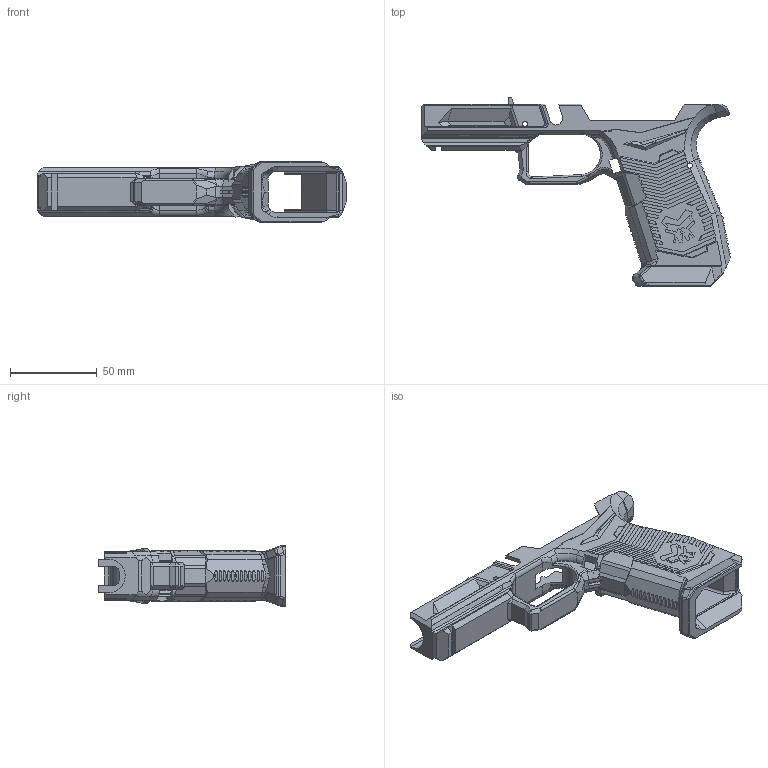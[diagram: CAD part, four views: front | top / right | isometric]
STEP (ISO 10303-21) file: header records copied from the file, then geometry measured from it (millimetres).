
FILE_DESCRIPTION(/* description */ ('','CAx-IF Rec.Pracs.---Representation and Presentation of Product Manufacturing Information (PMI)---4.0---2014-10-13'),/* implementation_level */ '2;1');
FILE_NAME(/* name */ 'Grey Site Variant GSV19X-G100.step',/* time_stamp */ '2025-03-06T20:16:35-07:00',/* author */ (''),/* organization */ (''),/* preprocessor_version */ 'ST-DEVELOPER v20',/* originating_system */ 'Autodesk Translation Framework v13.20.0.188',/* authorisation */ '');
FILE_SCHEMA (('AP242_MANAGED_MODEL_BASED_3D_ENGINEERING_MIM_LF { 1 0 10303 442 1 1 4 }'));
Length unit declared in the file: inch
Products named in the file (1): Grey Site Variant GSV19X-G100
Bounding box: 178.04 x 108.18 x 35.36 mm (x, y, z)
Volume: 84520.4 mm3; surface area: 44528.7 mm2
Topology: 1 solids, 1 shells, 989 faces, 2900 edges, 1899 vertices
Faces by surface type: plane 678, cylinder 206, bspline 77, torus 10, sphere 10, cone 8
Full cylindrical faces by diameter (mm): 1.321 x1, 3 x4
Entity records: 35007 total; most frequent: CARTESIAN_POINT 8919, ORIENTED_EDGE 5796, DIRECTION 5002, EDGE_CURVE 2898, LINE 2188, VECTOR 2188, VERTEX_POINT 1899, AXIS2_PLACEMENT_3D 1407
